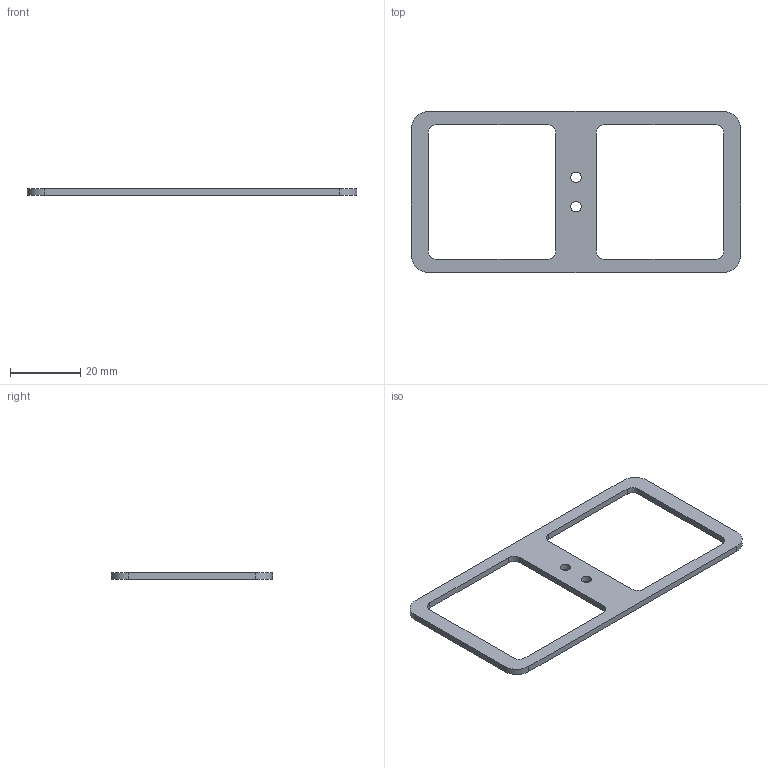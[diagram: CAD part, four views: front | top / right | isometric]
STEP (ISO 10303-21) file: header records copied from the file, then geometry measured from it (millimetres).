
FILE_DESCRIPTION(('Open CASCADE Model'),'2;1');
FILE_NAME('A04_display_bezel','2026-11-05T16:12:41',('Author'),( 'Open CASCADE'),'Open CASCADE STEP processor 7.9','build123d', 'Unknown');
FILE_SCHEMA(('AUTOMOTIVE_DESIGN { 1 0 10303 214 1 1 1 1 }'));
Length unit declared in the file: millimetre
Products named in the file (2): A04_display_bezel
Assembly tree (1 placements, depth 2):
  A04_display_bezel
    A04_display_bezel
Bounding box: 94 x 46 x 1.8 mm (x, y, z)
Volume: 2705 mm3; surface area: 4051.7 mm2
Topology: 1 solids, 1 shells, 28 faces, 78 edges, 52 vertices
Faces by surface type: plane 14, cylinder 14
Full cylindrical faces by diameter (mm): 3 x2
Entity records: 1992 total; most frequent: DIRECTION 322, CARTESIAN_POINT 316, LINE 178, VECTOR 178, ORIENTED_EDGE 156, PCURVE 156, DEFINITIONAL_REPRESENTATION 156, EDGE_CURVE 78
